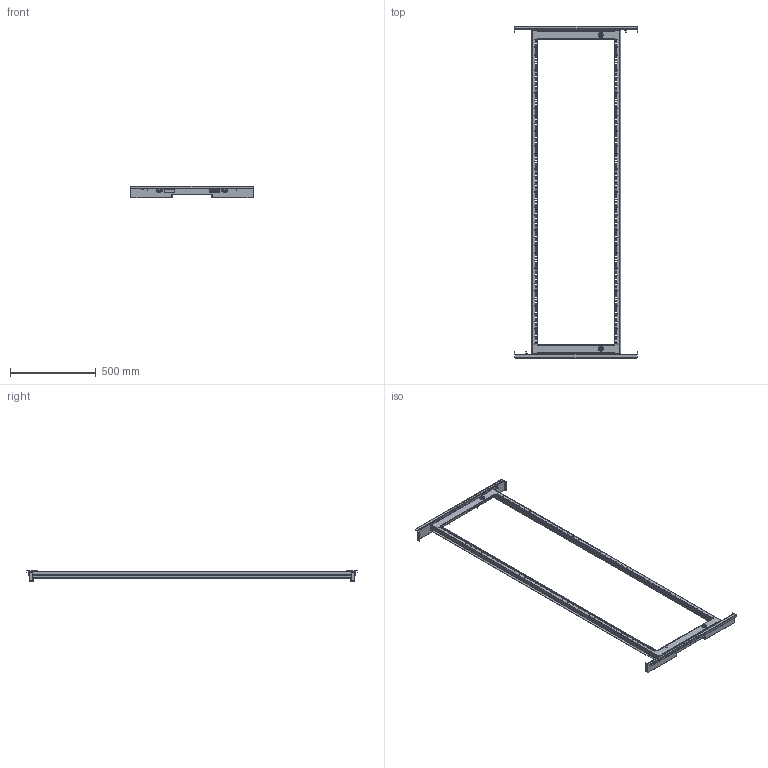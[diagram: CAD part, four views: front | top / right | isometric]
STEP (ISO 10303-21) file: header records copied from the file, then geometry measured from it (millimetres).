
FILE_DESCRIPTION (( 'STEP AP203' ), '1' );
FILE_NAME ('MC 200.80 IR Ðàìà 19'''' ïîâîðîòíàÿ.STEP', '2013-01-15T14:01:55', ( 'System' ), ( '' ), 'SwSTEP 2.0', 'SolidWorks 2012', '' );
FILE_SCHEMA (( 'CONFIG_CONTROL_DESIGN' ));
Products named in the file (1): MC 200.80 IR Ðàìà 19'''' ïîâîðîòíàÿ
Bounding box: 720.5 x 1938 x 68.85 mm (x, y, z)
Surface area: 1301320.8 mm2 (no closed solid volume)
Topology: 0 solids, 29 shells, 4112 faces, 11596 edges, 7550 vertices
Faces by surface type: plane 2278, cylinder 1634, bspline 104, cone 74, torus 22
Entity records: 142326 total; most frequent: CARTESIAN_POINT 32347, ORIENTED_EDGE 23152, DIRECTION 22866, EDGE_CURVE 11580, LINE 7668, VECTOR 7668, AXIS2_PLACEMENT_3D 7599, VERTEX_POINT 7550
